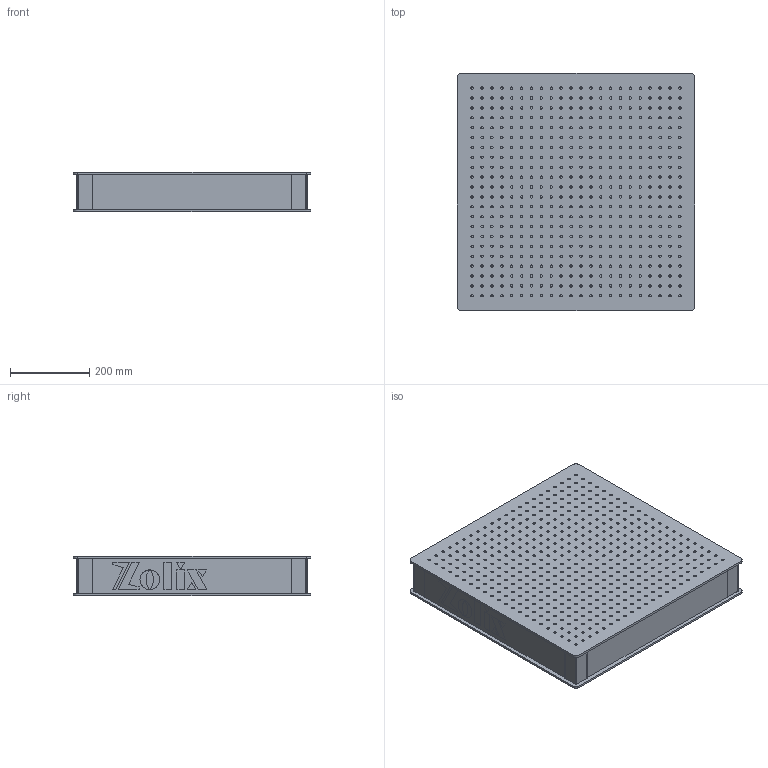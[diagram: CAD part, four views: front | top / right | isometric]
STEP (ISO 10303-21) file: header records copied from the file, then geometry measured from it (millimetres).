
FILE_DESCRIPTION (( 'STEP AP203' ), '1' );
FILE_NAME ('OTBP66-100 怢醱.STEP', '2019-05-14T06:34:36', ( 'User' ), ( 'User' ), 'SwSTEP 2.0', 'SolidWorks 2016', '' );
FILE_SCHEMA (( 'CONFIG_CONTROL_DESIGN' ));
Length unit declared in the file: millimetre
Products named in the file (1): OTBP66-100 怢醱
Bounding box: 600 x 600 x 101 mm (x, y, z)
Surface area: 1744558.8 mm2 (no closed solid volume)
Topology: 0 solids, 30 shells, 1054 faces, 3374 edges, 2352 vertices
Faces by surface type: cylinder 980, plane 74
Entity records: 40384 total; most frequent: DIRECTION 7444, CARTESIAN_POINT 6781, ORIENTED_EDGE 6368, EDGE_CURVE 3374, AXIS2_PLACEMENT_3D 3015, VERTEX_POINT 2352, EDGE_LOOP 2022, CIRCLE 1960
